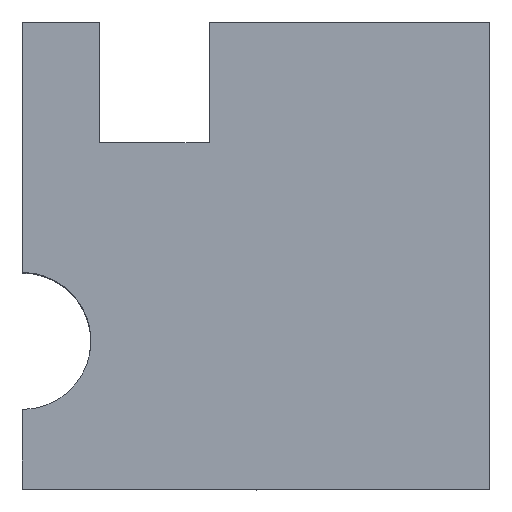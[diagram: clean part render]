
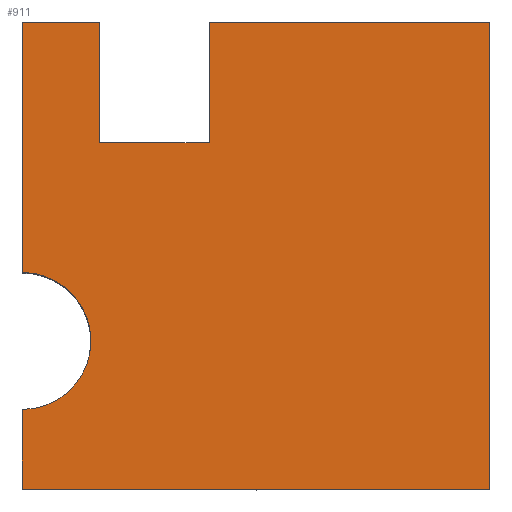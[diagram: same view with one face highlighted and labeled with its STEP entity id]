
A CAD part, top view. The second image highlights one B-rep face of the part: STEP entity #911.
In plain terms, the highlighted planar face has unit normal (0, 0, 1).
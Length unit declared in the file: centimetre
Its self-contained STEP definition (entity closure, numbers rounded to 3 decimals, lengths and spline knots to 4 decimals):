
#35 = CARTESIAN_POINT ( 'NONE',  ( 165.7576, 741.7759, 1000. ) ) ;
#49 = DIRECTION ( 'NONE',  ( -1., 0., 0. ) ) ;
#52 = EDGE_CURVE ( 'NONE', #935, #169, #606, .T. ) ;
#79 = VECTOR ( 'NONE', #414, 100. ) ;
#81 = VECTOR ( 'NONE', #153, 100. ) ;
#99 = DIRECTION ( 'NONE',  ( 0., 0., 1. ) ) ;
#105 = CARTESIAN_POINT ( 'NONE',  ( 0., 464.1835, 1000. ) ) ;
#115 = CARTESIAN_POINT ( 'NONE',  ( 165.7576, 1000., 1000. ) ) ;
#141 = DIRECTION ( 'NONE',  ( 0., -1., 0. ) ) ;
#153 = DIRECTION ( 'NONE',  ( 0., -1., 0. ) ) ;
#169 = VERTEX_POINT ( 'NONE', #1039 ) ;
#189 = CARTESIAN_POINT ( 'NONE',  ( 0., 1000., 1000. ) ) ;
#194 = ORIENTED_EDGE ( 'NONE', *, *, #518, .T. ) ;
#215 = VERTEX_POINT ( 'NONE', #115 ) ;
#233 = CARTESIAN_POINT ( 'NONE',  ( 1000., 1000., 1000. ) ) ;
#263 = DIRECTION ( 'NONE',  ( 0., -1., 0. ) ) ;
#288 = ORIENTED_EDGE ( 'NONE', *, *, #458, .T. ) ;
#319 = EDGE_CURVE ( 'NONE', #563, #748, #609, .T. ) ;
#324 = CARTESIAN_POINT ( 'NONE',  ( 0., 1000., 1000. ) ) ;
#325 = AXIS2_PLACEMENT_3D ( 'NONE', #1169, #515, #691 ) ;
#332 = LINE ( 'NONE', #613, #1124 ) ;
#347 = CARTESIAN_POINT ( 'NONE',  ( 399.5343, 1000., 1000. ) ) ;
#365 = CARTESIAN_POINT ( 'NONE',  ( 1000., 0., 1000. ) ) ;
#383 = EDGE_CURVE ( 'NONE', #583, #973, #425, .T. ) ;
#414 = DIRECTION ( 'NONE',  ( 0., 1., 0. ) ) ;
#425 = LINE ( 'NONE', #324, #81 ) ;
#436 = VERTEX_POINT ( 'NONE', #347 ) ;
#458 = EDGE_CURVE ( 'NONE', #215, #583, #556, .T. ) ;
#462 = AXIS2_PLACEMENT_3D ( 'NONE', #650, #99, #1097 ) ;
#464 = DIRECTION ( 'NONE',  ( -1., 0., 0. ) ) ;
#483 = CARTESIAN_POINT ( 'NONE',  ( 0., 170.8431, 1000. ) ) ;
#515 = DIRECTION ( 'NONE',  ( 0., 0., -1. ) ) ;
#518 = EDGE_CURVE ( 'NONE', #436, #1054, #1091, .T. ) ;
#548 = CARTESIAN_POINT ( 'NONE',  ( 0., 1000., 1000. ) ) ;
#549 = CARTESIAN_POINT ( 'NONE',  ( 399.5343, 741.7759, 1000. ) ) ;
#554 = VECTOR ( 'NONE', #464, 100. ) ;
#556 = LINE ( 'NONE', #548, #690 ) ;
#563 = VERTEX_POINT ( 'NONE', #483 ) ;
#571 = VECTOR ( 'NONE', #141, 100. ) ;
#580 = PLANE ( 'NONE',  #462 ) ;
#583 = VERTEX_POINT ( 'NONE', #189 ) ;
#599 = CARTESIAN_POINT ( 'NONE',  ( 0., 0., 1000. ) ) ;
#606 = LINE ( 'NONE', #233, #639 ) ;
#609 = LINE ( 'NONE', #975, #571 ) ;
#613 = CARTESIAN_POINT ( 'NONE',  ( 0., 1000., 1000. ) ) ;
#639 = VECTOR ( 'NONE', #686, 100. ) ;
#642 = ORIENTED_EDGE ( 'NONE', *, *, #383, .T. ) ;
#650 = CARTESIAN_POINT ( 'NONE',  ( 0., 0., 1000. ) ) ;
#666 = ORIENTED_EDGE ( 'NONE', *, *, #52, .T. ) ;
#686 = DIRECTION ( 'NONE',  ( 0., 1., 0. ) ) ;
#688 = LINE ( 'NONE', #1058, #79 ) ;
#690 = VECTOR ( 'NONE', #820, 100. ) ;
#691 = DIRECTION ( 'NONE',  ( -1., 0., 0. ) ) ;
#739 = CARTESIAN_POINT ( 'NONE',  ( 0., 0., 1000. ) ) ;
#748 = VERTEX_POINT ( 'NONE', #599 ) ;
#780 = CARTESIAN_POINT ( 'NONE',  ( 165.7576, 741.7759, 1000. ) ) ;
#809 = VERTEX_POINT ( 'NONE', #780 ) ;
#820 = DIRECTION ( 'NONE',  ( -1., 0., 0. ) ) ;
#826 = EDGE_CURVE ( 'NONE', #973, #563, #1035, .T. ) ;
#832 = LINE ( 'NONE', #739, #881 ) ;
#854 = ORIENTED_EDGE ( 'NONE', *, *, #1081, .T. ) ;
#871 = ORIENTED_EDGE ( 'NONE', *, *, #1092, .T. ) ;
#881 = VECTOR ( 'NONE', #913, 100. ) ;
#911 = ADVANCED_FACE ( 'NONE', ( #968 ), #580, .T. ) ;
#913 = DIRECTION ( 'NONE',  ( 1., 0., 0. ) ) ;
#919 = VECTOR ( 'NONE', #263, 100. ) ;
#920 = LINE ( 'NONE', #35, #554 ) ;
#935 = VERTEX_POINT ( 'NONE', #365 ) ;
#968 = FACE_OUTER_BOUND ( 'NONE', #1123, .T. ) ;
#973 = VERTEX_POINT ( 'NONE', #105 ) ;
#975 = CARTESIAN_POINT ( 'NONE',  ( 0., 1000., 1000. ) ) ;
#998 = EDGE_CURVE ( 'NONE', #1054, #809, #920, .T. ) ;
#1028 = ORIENTED_EDGE ( 'NONE', *, *, #1061, .T. ) ;
#1035 = CIRCLE ( 'NONE', #325, 146.6702 ) ;
#1039 = CARTESIAN_POINT ( 'NONE',  ( 1000., 1000., 1000. ) ) ;
#1054 = VERTEX_POINT ( 'NONE', #549 ) ;
#1058 = CARTESIAN_POINT ( 'NONE',  ( 165.7576, 741.7759, 1000. ) ) ;
#1061 = EDGE_CURVE ( 'NONE', #748, #935, #832, .T. ) ;
#1081 = EDGE_CURVE ( 'NONE', #809, #215, #688, .T. ) ;
#1091 = LINE ( 'NONE', #1183, #919 ) ;
#1092 = EDGE_CURVE ( 'NONE', #169, #436, #332, .T. ) ;
#1097 = DIRECTION ( 'NONE',  ( 1., 0., 0. ) ) ;
#1117 = ORIENTED_EDGE ( 'NONE', *, *, #998, .T. ) ;
#1118 = ORIENTED_EDGE ( 'NONE', *, *, #319, .T. ) ;
#1121 = ORIENTED_EDGE ( 'NONE', *, *, #826, .T. ) ;
#1123 = EDGE_LOOP ( 'NONE', ( #1121, #1118, #1028, #666, #871, #194, #1117, #854, #288, #642 ) ) ;
#1124 = VECTOR ( 'NONE', #49, 100. ) ;
#1169 = CARTESIAN_POINT ( 'NONE',  ( 0., 317.5133, 1000. ) ) ;
#1183 = CARTESIAN_POINT ( 'NONE',  ( 399.5343, 741.7759, 1000. ) ) ;
